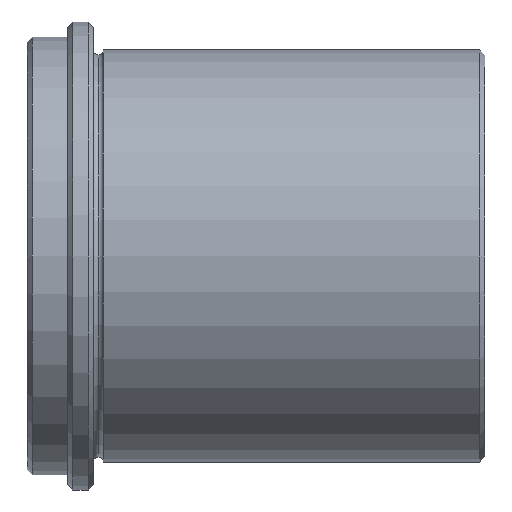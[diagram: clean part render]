
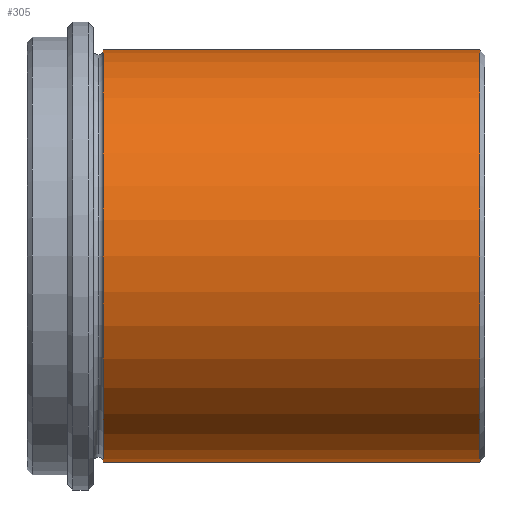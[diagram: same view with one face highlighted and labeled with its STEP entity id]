
A CAD part, left-side view. The second image highlights one B-rep face of the part: STEP entity #305.
In plain terms, the highlighted cylindrical face has radius 40.5 mm (diameter 81 mm), a partial arc.
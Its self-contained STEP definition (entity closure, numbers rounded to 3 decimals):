
#61=CARTESIAN_POINT('Vertex',(0.,1.,40.5)) ;
#84=CARTESIAN_POINT('Vertex',(0.,1.,-40.5)) ;
#125=CARTESIAN_POINT('Axis2P3D Location',(0.,1.,0.)) ;
#129=CARTESIAN_POINT('Vertex',(-40.5,1.,0.)) ;
#132=CARTESIAN_POINT('Axis2P3D Location',(0.,1.,0.)) ;
#245=CARTESIAN_POINT('Line Origine',(0.,0.,-40.5)) ;
#249=CARTESIAN_POINT('Vertex',(0.,75.,-40.5)) ;
#263=CARTESIAN_POINT('Vertex',(0.,75.,40.5)) ;
#266=CARTESIAN_POINT('Line Origine',(0.,0.,40.5)) ;
#280=CARTESIAN_POINT('Axis2P3D Location',(0.,0.,0.)) ;
#285=CARTESIAN_POINT('Axis2P3D Location',(0.,75.,0.)) ;
#289=CARTESIAN_POINT('Vertex',(-40.5,75.,0.)) ;
#292=CARTESIAN_POINT('Axis2P3D Location',(0.,75.,0.)) ;
#126=DIRECTION('Axis2P3D Direction',(-0.,1.,0.)) ;
#133=DIRECTION('Axis2P3D Direction',(-0.,1.,0.)) ;
#246=DIRECTION('Vector Direction',(0.,1.,0.)) ;
#267=DIRECTION('Vector Direction',(0.,1.,0.)) ;
#281=DIRECTION('Axis2P3D Direction',(0.,1.,0.)) ;
#282=DIRECTION('Axis2P3D XDirection',(0.,0.,-1.)) ;
#286=DIRECTION('Axis2P3D Direction',(0.,1.,0.)) ;
#293=DIRECTION('Axis2P3D Direction',(0.,1.,0.)) ;
#127=AXIS2_PLACEMENT_3D('Circle Axis2P3D',#125,#126,$) ;
#134=AXIS2_PLACEMENT_3D('Circle Axis2P3D',#132,#133,$) ;
#283=AXIS2_PLACEMENT_3D('Cylinder Axis2P3D',#280,#281,#282) ;
#287=AXIS2_PLACEMENT_3D('Circle Axis2P3D',#285,#286,$) ;
#294=AXIS2_PLACEMENT_3D('Circle Axis2P3D',#292,#293,$) ;
#298=ORIENTED_EDGE('',*,*,#270,.T.) ;
#299=ORIENTED_EDGE('',*,*,#291,.T.) ;
#300=ORIENTED_EDGE('',*,*,#296,.T.) ;
#301=ORIENTED_EDGE('',*,*,#251,.T.) ;
#302=ORIENTED_EDGE('',*,*,#136,.F.) ;
#303=ORIENTED_EDGE('',*,*,#131,.F.) ;
#247=VECTOR('Line Direction',#246,1.) ;
#268=VECTOR('Line Direction',#267,1.) ;
#305=ADVANCED_FACE('CF 439 63x90',(#304),#284,.T.) ;
#128=CIRCLE('generated circle',#127,40.5) ;
#135=CIRCLE('generated circle',#134,40.5) ;
#288=CIRCLE('generated circle',#287,40.5) ;
#295=CIRCLE('generated circle',#294,40.5) ;
#284=CYLINDRICAL_SURFACE('generated cylinder',#283,40.5) ;
#131=EDGE_CURVE('',#62,#130,#128,.F.) ;
#136=EDGE_CURVE('',#130,#85,#135,.F.) ;
#251=EDGE_CURVE('',#250,#85,#248,.F.) ;
#270=EDGE_CURVE('',#62,#264,#269,.T.) ;
#291=EDGE_CURVE('',#264,#290,#288,.F.) ;
#296=EDGE_CURVE('',#290,#250,#295,.F.) ;
#297=EDGE_LOOP('',(#298,#299,#300,#301,#302,#303)) ;
#304=FACE_OUTER_BOUND('',#297,.T.) ;
#248=LINE('Line',#245,#247) ;
#269=LINE('Line',#266,#268) ;
#62=VERTEX_POINT('',#61) ;
#85=VERTEX_POINT('',#84) ;
#130=VERTEX_POINT('',#129) ;
#250=VERTEX_POINT('',#249) ;
#264=VERTEX_POINT('',#263) ;
#290=VERTEX_POINT('',#289) ;
